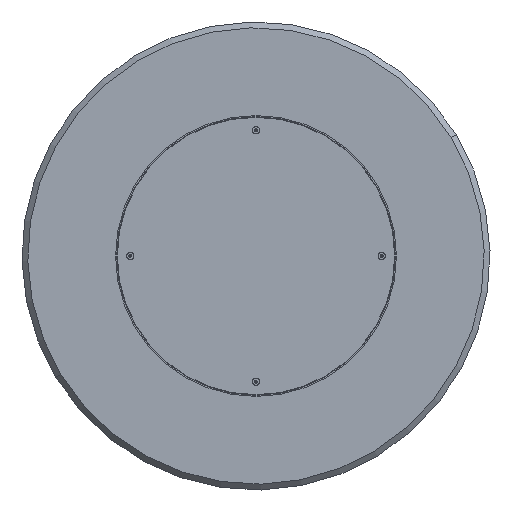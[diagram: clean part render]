
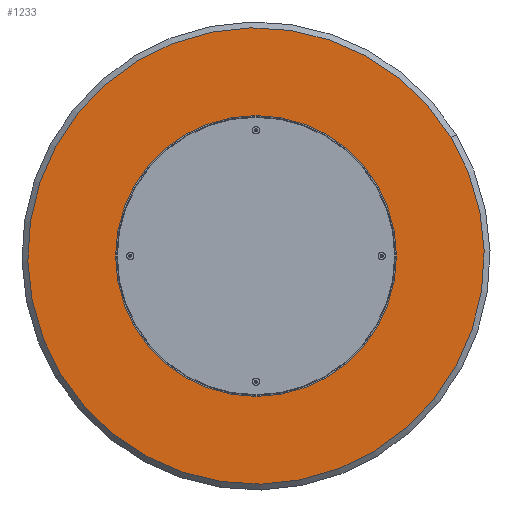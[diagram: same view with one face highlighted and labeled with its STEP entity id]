
A CAD part, front view. The second image highlights one B-rep face of the part: STEP entity #1233.
In plain terms, the highlighted planar face has unit normal (0, -1, 0).
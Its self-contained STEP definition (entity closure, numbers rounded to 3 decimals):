
#5 = CIRCLE ( 'NONE', #1264, 3.4 ) ;
#70 = VERTEX_POINT ( 'NONE', #1675 ) ;
#159 = FACE_BOUND ( 'NONE', #6159, .T. ) ;
#269 = CARTESIAN_POINT ( 'NONE',  ( -95., 0., -54.848 ) ) ;
#375 = DIRECTION ( 'NONE',  ( 0., -1., 0. ) ) ;
#523 = CIRCLE ( 'NONE', #3422, 3.4 ) ;
#731 = EDGE_CURVE ( 'NONE', #4906, #3873, #3300, .T. ) ;
#732 = DIRECTION ( 'NONE',  ( 0., 0., -1. ) ) ;
#759 = FACE_BOUND ( 'NONE', #5644, .T. ) ;
#806 = EDGE_CURVE ( 'NONE', #3262, #1880, #4434, .T. ) ;
#915 = EDGE_CURVE ( 'NONE', #3124, #2145, #523, .T. ) ;
#963 = ORIENTED_EDGE ( 'NONE', *, *, #5092, .F. ) ;
#1233 = ADVANCED_FACE ( 'NONE', ( #759, #159, #1501, #4544, #7019 ), #4623, .T. ) ;
#1264 = AXIS2_PLACEMENT_3D ( 'NONE', #1484, #5673, #5133 ) ;
#1484 = CARTESIAN_POINT ( 'NONE',  ( 0., 0., 0. ) ) ;
#1501 = FACE_BOUND ( 'NONE', #2239, .T. ) ;
#1522 = DIRECTION ( 'NONE',  ( 0., -1., 0. ) ) ;
#1545 = CIRCLE ( 'NONE', #5962, 3.4 ) ;
#1575 = ORIENTED_EDGE ( 'NONE', *, *, #2257, .F. ) ;
#1670 = CARTESIAN_POINT ( 'NONE',  ( 0., 0., 0. ) ) ;
#1675 = CARTESIAN_POINT ( 'NONE',  ( 0., 0., -3.4 ) ) ;
#1680 = AXIS2_PLACEMENT_3D ( 'NONE', #2781, #4415, #5718 ) ;
#1779 = DIRECTION ( 'NONE',  ( 0., -1., 0. ) ) ;
#1880 = VERTEX_POINT ( 'NONE', #5209 ) ;
#1951 = CARTESIAN_POINT ( 'NONE',  ( 0., 0., 109.697 ) ) ;
#2145 = VERTEX_POINT ( 'NONE', #5558 ) ;
#2239 = EDGE_LOOP ( 'NONE', ( #3254, #1575 ) ) ;
#2255 = ORIENTED_EDGE ( 'NONE', *, *, #3832, .T. ) ;
#2257 = EDGE_CURVE ( 'NONE', #3977, #3845, #1545, .T. ) ;
#2293 = EDGE_CURVE ( 'NONE', #2145, #3124, #4578, .T. ) ;
#2420 = CIRCLE ( 'NONE', #6836, 390. ) ;
#2470 = DIRECTION ( 'NONE',  ( 0., 0., -1. ) ) ;
#2622 = EDGE_CURVE ( 'NONE', #3845, #3977, #7533, .T. ) ;
#2638 = ORIENTED_EDGE ( 'NONE', *, *, #915, .F. ) ;
#2756 = AXIS2_PLACEMENT_3D ( 'NONE', #1951, #6165, #732 ) ;
#2781 = CARTESIAN_POINT ( 'NONE',  ( 0., 0., 0. ) ) ;
#3124 = VERTEX_POINT ( 'NONE', #6116 ) ;
#3254 = ORIENTED_EDGE ( 'NONE', *, *, #2622, .F. ) ;
#3261 = EDGE_LOOP ( 'NONE', ( #5763, #2255 ) ) ;
#3262 = VERTEX_POINT ( 'NONE', #6069 ) ;
#3300 = CIRCLE ( 'NONE', #3677, 3.4 ) ;
#3422 = AXIS2_PLACEMENT_3D ( 'NONE', #7684, #1779, #6011 ) ;
#3584 = CARTESIAN_POINT ( 'NONE',  ( -95., 0., -51.448 ) ) ;
#3677 = AXIS2_PLACEMENT_3D ( 'NONE', #7027, #5188, #4007 ) ;
#3777 = ORIENTED_EDGE ( 'NONE', *, *, #7415, .F. ) ;
#3832 = EDGE_CURVE ( 'NONE', #1880, #3262, #2420, .T. ) ;
#3845 = VERTEX_POINT ( 'NONE', #5672 ) ;
#3873 = VERTEX_POINT ( 'NONE', #3584 ) ;
#3899 = EDGE_LOOP ( 'NONE', ( #963, #7184 ) ) ;
#3977 = VERTEX_POINT ( 'NONE', #4139 ) ;
#3983 = DIRECTION ( 'NONE',  ( 0., -1., 0. ) ) ;
#4007 = DIRECTION ( 'NONE',  ( 0., 0., -1. ) ) ;
#4084 = DIRECTION ( 'NONE',  ( 0., 0., -1. ) ) ;
#4139 = CARTESIAN_POINT ( 'NONE',  ( 0., 0., 113.097 ) ) ;
#4291 = DIRECTION ( 'NONE',  ( 0., -1., 0. ) ) ;
#4415 = DIRECTION ( 'NONE',  ( 0., -1., 0. ) ) ;
#4434 = CIRCLE ( 'NONE', #5318, 390. ) ;
#4442 = AXIS2_PLACEMENT_3D ( 'NONE', #7602, #6876, #5115 ) ;
#4544 = FACE_BOUND ( 'NONE', #3899, .T. ) ;
#4553 = DIRECTION ( 'NONE',  ( 0., -1., 0. ) ) ;
#4578 = CIRCLE ( 'NONE', #5590, 3.4 ) ;
#4623 = PLANE ( 'NONE',  #4442 ) ;
#4753 = ORIENTED_EDGE ( 'NONE', *, *, #731, .F. ) ;
#4906 = VERTEX_POINT ( 'NONE', #7677 ) ;
#5092 = EDGE_CURVE ( 'NONE', #70, #5367, #5, .T. ) ;
#5115 = DIRECTION ( 'NONE',  ( 0., 0., -1. ) ) ;
#5133 = DIRECTION ( 'NONE',  ( 0., 0., -1. ) ) ;
#5188 = DIRECTION ( 'NONE',  ( 0., -1., 0. ) ) ;
#5209 = CARTESIAN_POINT ( 'NONE',  ( 0., 0., -390. ) ) ;
#5318 = AXIS2_PLACEMENT_3D ( 'NONE', #1670, #4553, #4084 ) ;
#5367 = VERTEX_POINT ( 'NONE', #5891 ) ;
#5487 = CARTESIAN_POINT ( 'NONE',  ( 0., 0., 109.697 ) ) ;
#5558 = CARTESIAN_POINT ( 'NONE',  ( 95., 0., -51.448 ) ) ;
#5590 = AXIS2_PLACEMENT_3D ( 'NONE', #6332, #3983, #6920 ) ;
#5644 = EDGE_LOOP ( 'NONE', ( #4753, #3777 ) ) ;
#5672 = CARTESIAN_POINT ( 'NONE',  ( 0., 0., 106.297 ) ) ;
#5673 = DIRECTION ( 'NONE',  ( 0., -1., 0. ) ) ;
#5718 = DIRECTION ( 'NONE',  ( 0., 0., -1. ) ) ;
#5763 = ORIENTED_EDGE ( 'NONE', *, *, #806, .T. ) ;
#5891 = CARTESIAN_POINT ( 'NONE',  ( 0., 0., 3.4 ) ) ;
#5962 = AXIS2_PLACEMENT_3D ( 'NONE', #5487, #4291, #2470 ) ;
#6011 = DIRECTION ( 'NONE',  ( 0., 0., -1. ) ) ;
#6069 = CARTESIAN_POINT ( 'NONE',  ( 0., 0., 390. ) ) ;
#6116 = CARTESIAN_POINT ( 'NONE',  ( 95., 0., -58.248 ) ) ;
#6159 = EDGE_LOOP ( 'NONE', ( #2638, #6545 ) ) ;
#6165 = DIRECTION ( 'NONE',  ( 0., -1., 0. ) ) ;
#6332 = CARTESIAN_POINT ( 'NONE',  ( 95., 0., -54.848 ) ) ;
#6460 = AXIS2_PLACEMENT_3D ( 'NONE', #269, #1522, #6969 ) ;
#6545 = ORIENTED_EDGE ( 'NONE', *, *, #2293, .F. ) ;
#6836 = AXIS2_PLACEMENT_3D ( 'NONE', #6888, #375, #7005 ) ;
#6876 = DIRECTION ( 'NONE',  ( 0., -1., 0. ) ) ;
#6888 = CARTESIAN_POINT ( 'NONE',  ( 0., 0., 0. ) ) ;
#6920 = DIRECTION ( 'NONE',  ( 0., 0., -1. ) ) ;
#6965 = CIRCLE ( 'NONE', #1680, 3.4 ) ;
#6969 = DIRECTION ( 'NONE',  ( 0., 0., -1. ) ) ;
#7005 = DIRECTION ( 'NONE',  ( 0., 0., -1. ) ) ;
#7019 = FACE_OUTER_BOUND ( 'NONE', #3261, .T. ) ;
#7027 = CARTESIAN_POINT ( 'NONE',  ( -95., 0., -54.848 ) ) ;
#7184 = ORIENTED_EDGE ( 'NONE', *, *, #7513, .F. ) ;
#7213 = CIRCLE ( 'NONE', #6460, 3.4 ) ;
#7415 = EDGE_CURVE ( 'NONE', #3873, #4906, #7213, .T. ) ;
#7513 = EDGE_CURVE ( 'NONE', #5367, #70, #6965, .T. ) ;
#7533 = CIRCLE ( 'NONE', #2756, 3.4 ) ;
#7602 = CARTESIAN_POINT ( 'NONE',  ( 0., 0., 0. ) ) ;
#7677 = CARTESIAN_POINT ( 'NONE',  ( -95., 0., -58.248 ) ) ;
#7684 = CARTESIAN_POINT ( 'NONE',  ( 95., 0., -54.848 ) ) ;
